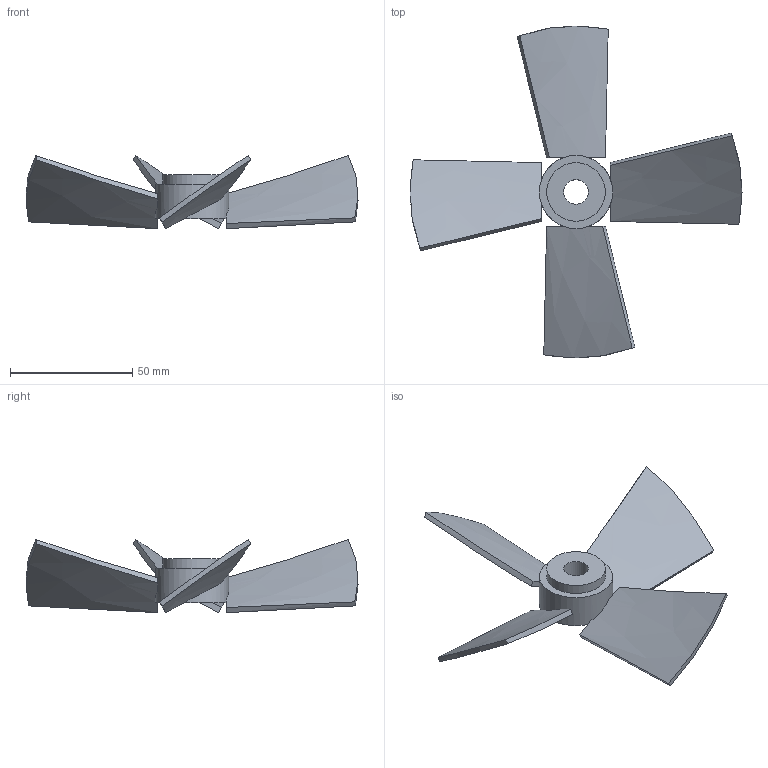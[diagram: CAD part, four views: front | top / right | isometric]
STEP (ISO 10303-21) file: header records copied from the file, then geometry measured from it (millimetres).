
FILE_DESCRIPTION(('Open CASCADE Model'),'2;1');
FILE_NAME('Open CASCADE Shape Model','2026-10-27T17:14:29',('Author'),( 'Open CASCADE'),'Open CASCADE STEP processor 8.0','build123d', 'Unknown');
FILE_SCHEMA(('AUTOMOTIVE_DESIGN { 1 0 10303 214 1 1 1 1 }'));
Length unit declared in the file: millimetre
Products named in the file (1): COMPOUND
Bounding box: 136 x 136 x 30.05 mm (x, y, z)
Volume: 26704 mm3; surface area: 19833.1 mm2
Topology: 1 solids, 1 shells, 35 faces, 96 edges, 64 vertices
Faces by surface type: bspline 16, plane 11, cylinder 8
Full cylindrical faces by diameter (mm): 10 x1, 24 x1, 30 x1
Entity records: 3354 total; most frequent: CARTESIAN_POINT 1784, ORIENTED_EDGE 192, PCURVE 192, DEFINITIONAL_REPRESENTATION 192, B_SPLINE_CURVE_WITH_KNOTS 178, DIRECTION 160, EDGE_CURVE 96, SURFACE_CURVE 93
